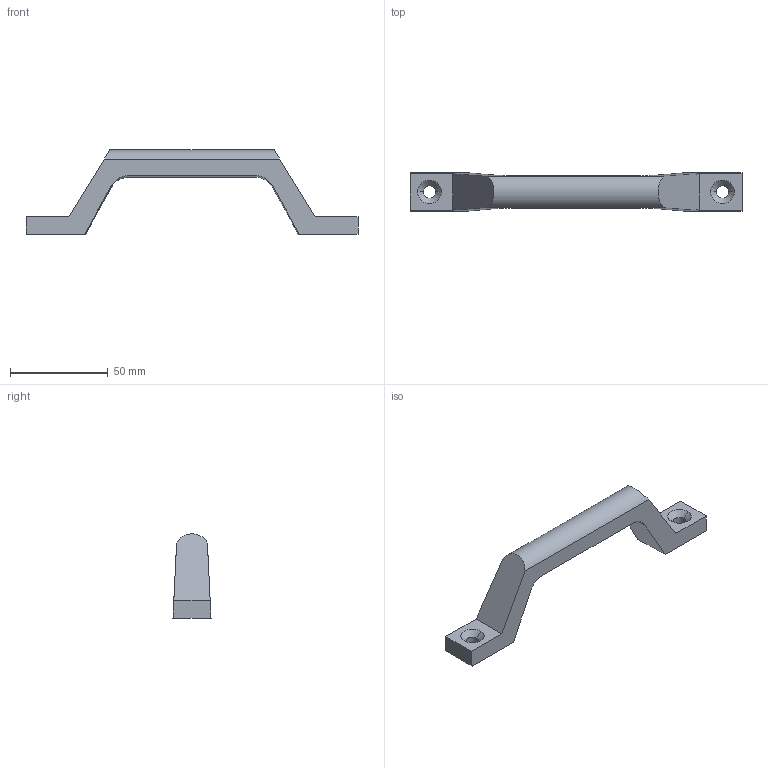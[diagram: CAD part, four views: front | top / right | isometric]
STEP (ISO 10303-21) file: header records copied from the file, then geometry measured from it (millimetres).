
FILE_DESCRIPTION (( 'STEP AP214' ), '1' );
FILE_NAME ('嶺忒20.STEP', '2023-06-28T01:42:01', ( 'Windows 蚚誧' ), ( '' ), 'SwSTEP 2.0', 'SolidWorks 2019', '' );
FILE_SCHEMA (( 'AUTOMOTIVE_DESIGN' ));
Length unit declared in the file: millimetre
Products named in the file (1): 嶺忒20
Bounding box: 170 x 19.5 x 43.23 mm (x, y, z)
Volume: 38258.6 mm3; surface area: 11916.7 mm2
Topology: 1 solids, 1 shells, 24 faces, 62 edges, 40 vertices
Faces by surface type: plane 13, cylinder 7, cone 4
Entity records: 770 total; most frequent: CARTESIAN_POINT 139, ORIENTED_EDGE 124, DIRECTION 122, EDGE_CURVE 62, VECTOR 44, LINE 44, VERTEX_POINT 40, AXIS2_PLACEMENT_3D 39
